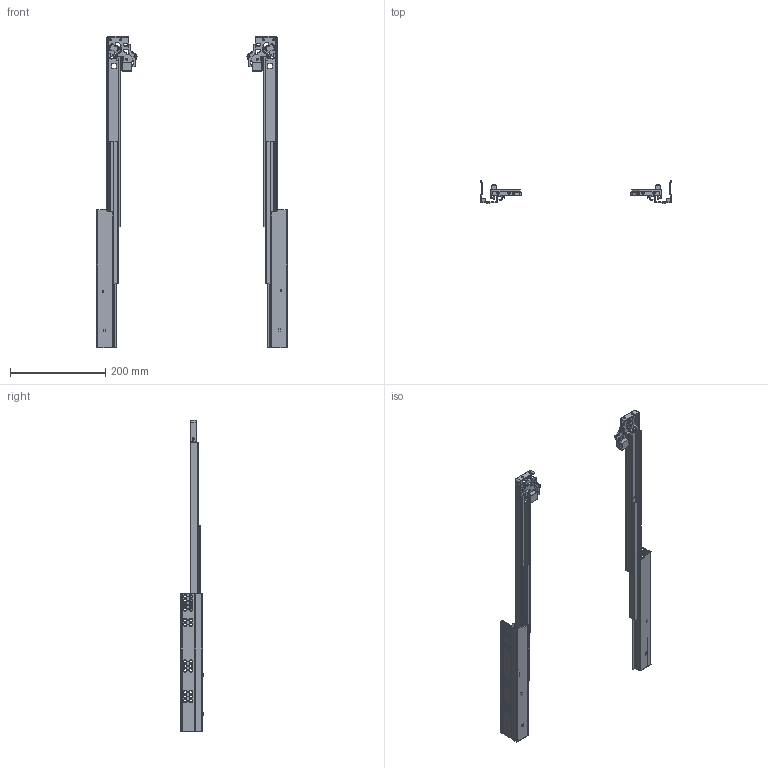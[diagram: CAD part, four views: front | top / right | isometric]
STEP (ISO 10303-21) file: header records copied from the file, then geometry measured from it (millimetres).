
FILE_DESCRIPTION(/* description */ (''),/* implementation_level */ '2;1');
FILE_NAME(/* name */ 'D:\$Workingspace\Designs\Katalog\Cadsoft\GTV Prowadnice\Prowadnice GTV_bryły 3D\PB-0FPO-400_wysunieta.stp',/* time_stamp */ '2016-11-21T14:06:06+01:00',/* author */ ('tomaszw'),/* organization */ (''),/* preprocessor_version */ 'ST-DEVELOPER v16.1',/* originating_system */ 'Autodesk Inventor 2016',/* authorisation */ '');
FILE_SCHEMA (('CONFIG_CONTROL_DESIGN','AUTOMOTIVE_DESIGN { 1 0 10303 214 3 1 1 }'));
Length unit declared in the file: millimetre
Products named in the file (9): PB-0FPO-CL-400; PB-0FPO-CR-400; PB-0FPO-DL-400; PB-0FPO-DR-400; PB-0FPO-DWL-400; PB-0FPO-DWR-400; PB-0FPO-SL; PB-0FPO-SR; PB-0FPO
Assembly tree (8 placements, depth 2):
  PB-0FPO
    PB-0FPO-CL-400
    PB-0FPO-CR-400
    PB-0FPO-DL-400
    PB-0FPO-DR-400
    PB-0FPO-DWL-400
    PB-0FPO-DWR-400
    PB-0FPO-SL
    PB-0FPO-SR
Bounding box: 400 x 48.8 x 654 mm (x, y, z)
Volume: 257360.2 mm3; surface area: 312511.2 mm2
Topology: 16 solids, 16 shells, 1882 faces, 4350 edges, 2506 vertices
Faces by surface type: cylinder 794, plane 440, torus 366, sphere 198, cone 48, bspline 36
Full cylindrical faces by diameter (mm): 3 x2, 4 x6, 4.5 x6, 5 x2, 6 x48, 7.889 x2
Entity records: 56313 total; most frequent: CARTESIAN_POINT 11143, DIRECTION 9976, ORIENTED_EDGE 8296, EDGE_CURVE 4148, AXIS2_PLACEMENT_3D 4033, VERTEX_POINT 2452, EDGE_LOOP 2180, CIRCLE 2158
